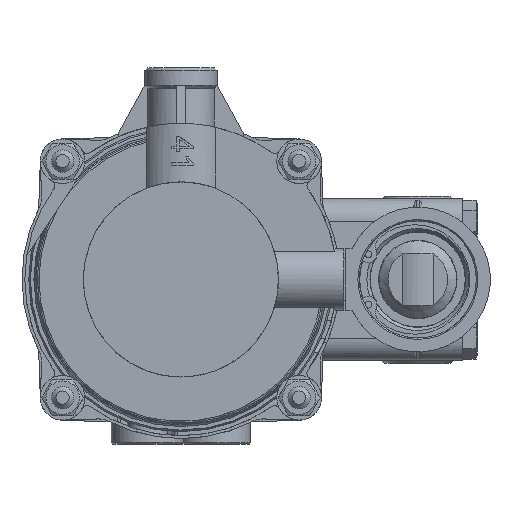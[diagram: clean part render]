
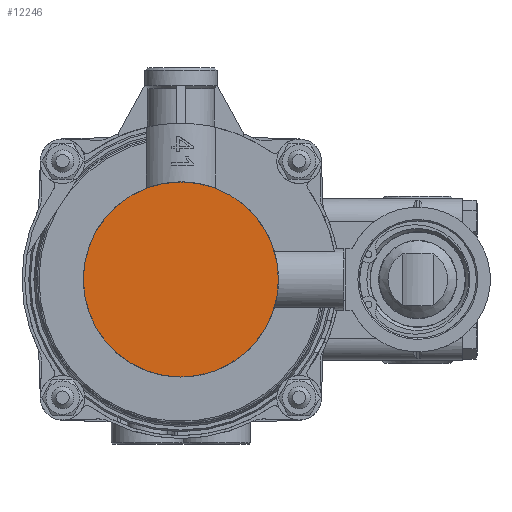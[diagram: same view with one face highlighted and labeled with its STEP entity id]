
A CAD part, top view. The second image highlights one B-rep face of the part: STEP entity #12246.
In plain terms, the highlighted planar face has unit normal (0, 0, 1).
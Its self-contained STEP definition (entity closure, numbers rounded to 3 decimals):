
#2064=FACE_OUTER_BOUND('',#15588,.T.);
#11161=PLANE('',#38678);
#12246=ADVANCED_FACE('',(#2064),#11161,.T.);
#15588=EDGE_LOOP('',(#18291));
#18291=ORIENTED_EDGE('',*,*,#31793,.T.);
#28295=VERTEX_POINT('',#52100);
#31793=EDGE_CURVE('',#28295,#28295,#36831,.T.);
#36831=CIRCLE('',#38601,35.);
#38601=AXIS2_PLACEMENT_3D('',#52183,#42437,#42438);
#38678=AXIS2_PLACEMENT_3D('',#52457,#42639,#42640);
#42437=DIRECTION('',(0.,0.,1.));
#42438=DIRECTION('',(1.,0.,0.));
#42639=DIRECTION('',(0.,0.,1.));
#42640=DIRECTION('',(1.,0.,0.));
#52100=CARTESIAN_POINT('',(0.,35.,100.3));
#52183=CARTESIAN_POINT('',(0.,0.,100.3));
#52457=CARTESIAN_POINT('',(0.,0.,
100.3));
